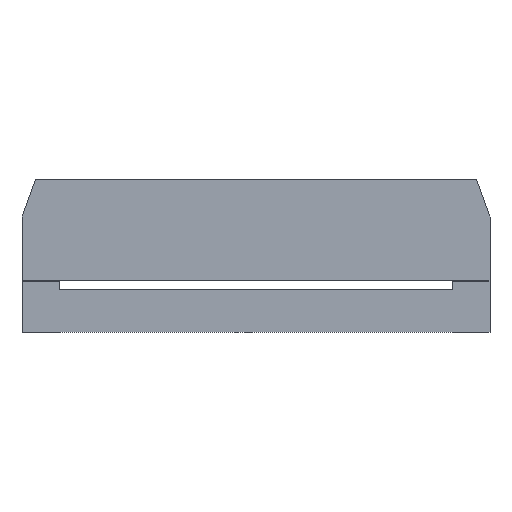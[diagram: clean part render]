
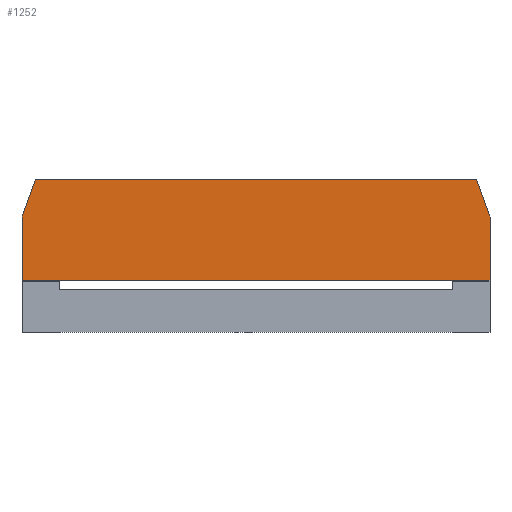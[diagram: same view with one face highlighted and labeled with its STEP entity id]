
A CAD part, front view. The second image highlights one B-rep face of the part: STEP entity #1252.
In plain terms, the highlighted planar face has unit normal (0, -1, 0).
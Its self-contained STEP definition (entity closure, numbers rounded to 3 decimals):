
#756 = EDGE_CURVE ( 'NONE', #757, #758, #5093, .T. ) ;
#757 = VERTEX_POINT ( 'NONE', #5776 ) ;
#758 = VERTEX_POINT ( 'NONE', #5652 ) ;
#1124 = ORIENTED_EDGE ( 'NONE', *, *, #1125, .T. ) ;
#1125 = EDGE_CURVE ( 'NONE', #1262, #757, #4847, .T. ) ;
#1126 = ORIENTED_EDGE ( 'NONE', *, *, #756, .T. ) ;
#1177 = EDGE_CURVE ( 'NONE', #1178, #1182, #4833, .T. ) ;
#1178 = VERTEX_POINT ( 'NONE', #4829 ) ;
#1182 = VERTEX_POINT ( 'NONE', #4823 ) ;
#1252 = ADVANCED_FACE ( 'NONE', ( #1446 ), #1444, .F. ) ;
#1253 = EDGE_LOOP ( 'NONE', ( #1254, #1257, #1259, #1260, #1124, #1126 ) ) ;
#1254 = ORIENTED_EDGE ( 'NONE', *, *, #1255, .F. ) ;
#1255 = EDGE_CURVE ( 'NONE', #1256, #758, #1445, .T. ) ;
#1256 = VERTEX_POINT ( 'NONE', #1436 ) ;
#1257 = ORIENTED_EDGE ( 'NONE', *, *, #1258, .T. ) ;
#1258 = EDGE_CURVE ( 'NONE', #1256, #1182, #1435, .T. ) ;
#1259 = ORIENTED_EDGE ( 'NONE', *, *, #1177, .F. ) ;
#1260 = ORIENTED_EDGE ( 'NONE', *, *, #1261, .T. ) ;
#1261 = EDGE_CURVE ( 'NONE', #1178, #1262, #1431, .T. ) ;
#1262 = VERTEX_POINT ( 'NONE', #1427 ) ;
#1427 = CARTESIAN_POINT ( 'NONE',  ( -12.6, -2.1, 3.4 ) ) ;
#1428 = DIRECTION ( 'NONE',  ( -0.342, 0., -0.94 ) ) ;
#1429 = VECTOR ( 'NONE', #1428, 1000. ) ;
#1430 = CARTESIAN_POINT ( 'NONE',  ( -11.872, -2.1, 5.4 ) ) ;
#1431 = LINE ( 'NONE', #1430, #1429 ) ;
#1432 = DIRECTION ( 'NONE',  ( -0.342, 0., 0.94 ) ) ;
#1433 = VECTOR ( 'NONE', #1432, 1000. ) ;
#1434 = CARTESIAN_POINT ( 'NONE',  ( 11.872, -2.1, 5.4 ) ) ;
#1435 = LINE ( 'NONE', #1434, #1433 ) ;
#1436 = CARTESIAN_POINT ( 'NONE',  ( 12.6, -2.1, 3.4 ) ) ;
#1437 = DIRECTION ( 'NONE',  ( 0., 0., -1. ) ) ;
#1438 = VECTOR ( 'NONE', #1437, 1000. ) ;
#1439 = CARTESIAN_POINT ( 'NONE',  ( 12.6, -2.1, 5.4 ) ) ;
#1440 = DIRECTION ( 'NONE',  ( 0., 0., 1. ) ) ;
#1441 = DIRECTION ( 'NONE',  ( 0., 1., 0. ) ) ;
#1442 = CARTESIAN_POINT ( 'NONE',  ( -12.6, -2.1, 5.4 ) ) ;
#1443 = AXIS2_PLACEMENT_3D ( 'NONE', #1442, #1441, #1440 ) ;
#1444 = PLANE ( 'NONE',  #1443 ) ;
#1445 = LINE ( 'NONE', #1439, #1438 ) ;
#1446 = FACE_OUTER_BOUND ( 'NONE', #1253, .T. ) ;
#4823 = CARTESIAN_POINT ( 'NONE',  ( 11.872, -2.1, 5.4 ) ) ;
#4829 = CARTESIAN_POINT ( 'NONE',  ( -11.872, -2.1, 5.4 ) ) ;
#4830 = DIRECTION ( 'NONE',  ( 1., 0., 0. ) ) ;
#4831 = VECTOR ( 'NONE', #4830, 1000. ) ;
#4832 = CARTESIAN_POINT ( 'NONE',  ( -12.6, -2.1, 5.4 ) ) ;
#4833 = LINE ( 'NONE', #4832, #4831 ) ;
#4844 = DIRECTION ( 'NONE',  ( 0., 0., -1. ) ) ;
#4845 = VECTOR ( 'NONE', #4844, 1000. ) ;
#4846 = CARTESIAN_POINT ( 'NONE',  ( -12.6, -2.1, 5.4 ) ) ;
#4847 = LINE ( 'NONE', #4846, #4845 ) ;
#5093 = LINE ( 'NONE', #5097, #5662 ) ;
#5097 = CARTESIAN_POINT ( 'NONE',  ( -12.6, -2.1, 0. ) ) ;
#5652 = CARTESIAN_POINT ( 'NONE',  ( 12.6, -2.1, 0. ) ) ;
#5662 = VECTOR ( 'NONE', #5704, 1000. ) ;
#5704 = DIRECTION ( 'NONE',  ( 1., 0., 0. ) ) ;
#5776 = CARTESIAN_POINT ( 'NONE',  ( -12.6, -2.1, 0. ) ) ;
